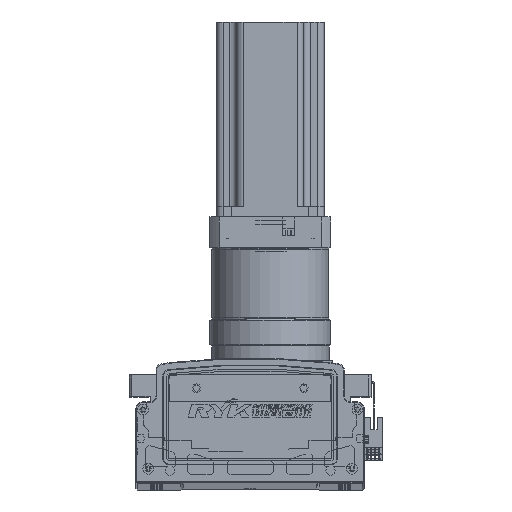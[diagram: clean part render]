
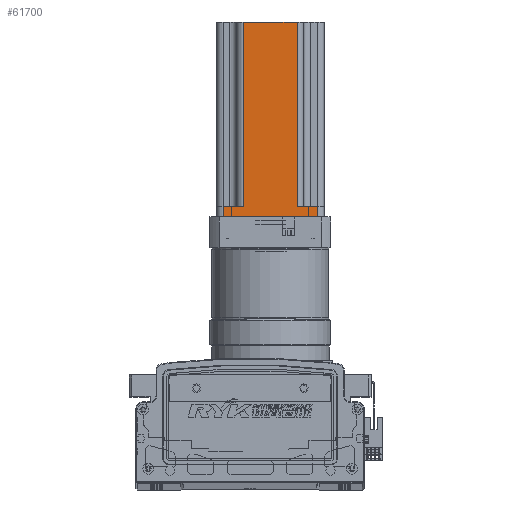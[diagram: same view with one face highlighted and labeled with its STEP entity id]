
A CAD part, top view. The second image highlights one B-rep face of the part: STEP entity #61700.
In plain terms, the highlighted planar face has unit normal (0, 0, 1) as drawn and (0, -1, 0) by its records, which use the part's own axes.
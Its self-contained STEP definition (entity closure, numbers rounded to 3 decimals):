
#5970 = FACE_OUTER_BOUND ( 'NONE', #79311, .T. ) ;
#15159 = CARTESIAN_POINT ( 'NONE',  ( -27.587, -40.37, 145. ) ) ;
#15168 = CARTESIAN_POINT ( 'NONE',  ( -67.587, -40.37, 8. ) ) ;
#15172 = CARTESIAN_POINT ( 'NONE',  ( -82.587, -40.37, 8. ) ) ;
#15175 = CARTESIAN_POINT ( 'NONE',  ( -67.587, -40.37, 145. ) ) ;
#15601 = PLANE ( 'NONE',  #26899 ) ;
#15622 = DIRECTION ( 'NONE',  ( 0., 1., 0. ) ) ;
#15623 = DIRECTION ( 'NONE',  ( -1., 0., 0. ) ) ;
#15636 = CARTESIAN_POINT ( 'NONE',  ( -87.587, -40.37, 145. ) ) ;
#16039 = CARTESIAN_POINT ( 'NONE',  ( -27.587, -40.37, 8. ) ) ;
#16103 = CARTESIAN_POINT ( 'NONE',  ( -12.587, -40.37, 0. ) ) ;
#18313 = CARTESIAN_POINT ( 'NONE',  ( -82.587, -40.37, 0. ) ) ;
#25628 = CARTESIAN_POINT ( 'NONE',  ( -12.587, -40.37, 8. ) ) ;
#26679 = LINE ( 'NONE', #54047, #26700 ) ;
#26700 = VECTOR ( 'NONE', #54001, 1000. ) ;
#26748 = LINE ( 'NONE', #54435, #26771 ) ;
#26771 = VECTOR ( 'NONE', #54443, 1000. ) ;
#26774 = LINE ( 'NONE', #54290, #26822 ) ;
#26800 = VECTOR ( 'NONE', #54195, 1000. ) ;
#26809 = VECTOR ( 'NONE', #54497, 1000. ) ;
#26820 = LINE ( 'NONE', #54486, #26809 ) ;
#26822 = VECTOR ( 'NONE', #54314, 1000. ) ;
#26842 = LINE ( 'NONE', #54231, #26800 ) ;
#26890 = VECTOR ( 'NONE', #54517, 1000. ) ;
#26892 = LINE ( 'NONE', #54775, #26942 ) ;
#26899 = AXIS2_PLACEMENT_3D ( 'NONE', #15636, #15622, #15623 ) ;
#26904 = VECTOR ( 'NONE', #54534, 1000. ) ;
#26906 = LINE ( 'NONE', #54640, #26904 ) ;
#26908 = LINE ( 'NONE', #54525, #26890 ) ;
#26942 = VECTOR ( 'NONE', #54684, 1000. ) ;
#29321 = EDGE_CURVE ( 'NONE', #58333, #58487, #26679, .T. ) ;
#29382 = EDGE_CURVE ( 'NONE', #58605, #58580, #26842, .T. ) ;
#29395 = EDGE_CURVE ( 'NONE', #58605, #58487, #26774, .T. ) ;
#29434 = EDGE_CURVE ( 'NONE', #58114, #58391, #26820, .T. ) ;
#29450 = EDGE_CURVE ( 'NONE', #58558, #58580, #26748, .T. ) ;
#29466 = EDGE_CURVE ( 'NONE', #58391, #58453, #26906, .T. ) ;
#29489 = EDGE_CURVE ( 'NONE', #58558, #58114, #26908, .T. ) ;
#29495 = EDGE_CURVE ( 'NONE', #58333, #58453, #26892, .T. ) ;
#52832 = ORIENTED_EDGE ( 'NONE', *, *, #29382, .T. ) ;
#52840 = ORIENTED_EDGE ( 'NONE', *, *, #29466, .T. ) ;
#52863 = ORIENTED_EDGE ( 'NONE', *, *, #29395, .F. ) ;
#52928 = ORIENTED_EDGE ( 'NONE', *, *, #29489, .T. ) ;
#52948 = ORIENTED_EDGE ( 'NONE', *, *, #29321, .T. ) ;
#52976 = ORIENTED_EDGE ( 'NONE', *, *, #29434, .T. ) ;
#52978 = ORIENTED_EDGE ( 'NONE', *, *, #29495, .F. ) ;
#52986 = ORIENTED_EDGE ( 'NONE', *, *, #29450, .F. ) ;
#54001 = DIRECTION ( 'NONE',  ( 0., 0., 1. ) ) ;
#54047 = CARTESIAN_POINT ( 'NONE',  ( -27.587, -40.37, 145. ) ) ;
#54195 = DIRECTION ( 'NONE',  ( 0., 0., -1. ) ) ;
#54231 = CARTESIAN_POINT ( 'NONE',  ( -67.587, -40.37, 145. ) ) ;
#54290 = CARTESIAN_POINT ( 'NONE',  ( -87.587, -40.37, 145. ) ) ;
#54314 = DIRECTION ( 'NONE',  ( 1., 0., 0. ) ) ;
#54435 = CARTESIAN_POINT ( 'NONE',  ( -87.587, -40.37, 8. ) ) ;
#54443 = DIRECTION ( 'NONE',  ( 1., 0., 0. ) ) ;
#54486 = CARTESIAN_POINT ( 'NONE',  ( -87.587, -40.37, 0. ) ) ;
#54497 = DIRECTION ( 'NONE',  ( 1., 0., 0. ) ) ;
#54517 = DIRECTION ( 'NONE',  ( 0., 0., -1. ) ) ;
#54525 = CARTESIAN_POINT ( 'NONE',  ( -82.587, -40.37, 145. ) ) ;
#54534 = DIRECTION ( 'NONE',  ( 0., 0., 1. ) ) ;
#54640 = CARTESIAN_POINT ( 'NONE',  ( -12.587, -40.37, 145. ) ) ;
#54684 = DIRECTION ( 'NONE',  ( 1., 0., 0. ) ) ;
#54775 = CARTESIAN_POINT ( 'NONE',  ( -7.587, -40.37, 8. ) ) ;
#58114 = VERTEX_POINT ( 'NONE', #18313 ) ;
#58333 = VERTEX_POINT ( 'NONE', #16039 ) ;
#58391 = VERTEX_POINT ( 'NONE', #16103 ) ;
#58453 = VERTEX_POINT ( 'NONE', #25628 ) ;
#58487 = VERTEX_POINT ( 'NONE', #15159 ) ;
#58558 = VERTEX_POINT ( 'NONE', #15172 ) ;
#58580 = VERTEX_POINT ( 'NONE', #15168 ) ;
#58605 = VERTEX_POINT ( 'NONE', #15175 ) ;
#61700 = ADVANCED_FACE ( 'NONE', ( #5970 ), #15601, .F. ) ;
#79311 = EDGE_LOOP ( 'NONE', ( #52986, #52928, #52976, #52840, #52978, #52948, #52863, #52832 ) ) ;
